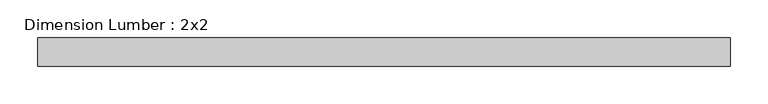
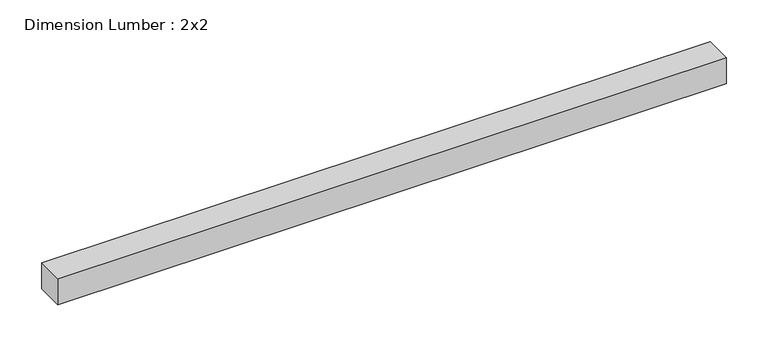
"""IFC4 building model written with IfcOpenShell, lengths in millimetres: beam geometry, Dimension Lumber : 2x2."""

import ifcopenshell
import ifcopenshell.guid

model = None  # the IFC model being written
_history = None  # IfcOwnerHistory: only IFC2X3 demands one
_inside = {}  # id of a spatial element -> (the spatial element, [elements in it])
_under = {}  # id of a project, library or spatial element -> (it, [spatial elements below it])
_declared = {}  # id of a project -> (the project, [libraries it declares])
_typed = {}  # id of a type object -> (the type object, [elements of that type])
_made_of = {}  # id of a material, layer set ... -> (it, [elements and type objects made of it])


def new_model(schema):
    """Start an empty IFC model of exactly this schema.

    Asked for "IFC4X3", IfcOpenShell would pick the latest addendum, in which some entities
    have other attributes; the version numbers below select the first issue.
    IFC2X3 requires an IfcOwnerHistory on every rooted entity: one is made here for all.
    """
    global model, _history
    if schema == "IFC4X3":
        model = ifcopenshell.file(schema_version=(4, 3, 0, 0))
    else:
        model = ifcopenshell.file(schema=schema)
    _inside.clear()
    _under.clear()
    _declared.clear()
    _typed.clear()
    _made_of.clear()
    _history = None
    if model.schema == "IFC2X3":
        org = make("IfcOrganization", Name="unknown")
        user = make(
            "IfcPersonAndOrganization",
            ThePerson=make("IfcPerson", FamilyName="unknown"),
            TheOrganization=org,
        )
        app = make(
            "IfcApplication",
            ApplicationDeveloper=org,
            Version="unknown",
            ApplicationFullName="unknown",
            ApplicationIdentifier="unknown",
        )
        _history = make(
            "IfcOwnerHistory",
            OwningUser=user,
            OwningApplication=app,
            ChangeAction="ADDED",
            CreationDate=0,
        )
    return model


def make(cls, **values):
    """One entity of the class cls with the attributes given. An attribute that is None is left unset."""
    return model.create_entity(
        cls, **{name: value for name, value in values.items() if value is not None}
    )


def rooted(cls, **values):
    """An entity with a GlobalId (a new one), such as an element, a storey or a relation."""
    return make(cls, GlobalId=ifcopenshell.guid.new(), OwnerHistory=_history, **values)


def si_unit(unit_type, name, prefix=None):
    """IfcSIUnit, for example si_unit("LENGTHUNIT", "METRE", prefix="MILLI")."""
    return make("IfcSIUnit", UnitType=unit_type, Prefix=prefix, Name=name)


def assignment(units):
    """IfcUnitAssignment: the units of a project."""
    return None if units is None else make("IfcUnitAssignment", Units=units)


def point(xyz):
    """IfcCartesianPoint."""
    return None if xyz is None else make("IfcCartesianPoint", Coordinates=xyz)


def direction(xyz):
    """IfcDirection."""
    return None if xyz is None else make("IfcDirection", DirectionRatios=xyz)


def frame(location, z_axis=None, x_axis=None):
    """IfcAxis2Placement3D, a coordinate frame: its origin and axes. An axis left out is left unset."""
    return make(
        "IfcAxis2Placement3D",
        Location=point(location),
        Axis=direction(z_axis),
        RefDirection=direction(x_axis),
    )


def origin():
    """The frame at (0, 0, 0) with its axes left unset."""
    return frame((0.0, 0.0, 0.0))


def place(relative_to, where):
    """IfcLocalPlacement: puts the frame where relative to a parent placement (None: the world)."""
    return make(
        "IfcLocalPlacement", PlacementRelTo=relative_to, RelativePlacement=where
    )


def context(
    kind, dimensions, precision=None, world=None, true_north=None, identifier=None
):
    """IfcGeometricRepresentationContext, for example the 3D "Model" context."""
    return make(
        "IfcGeometricRepresentationContext",
        ContextIdentifier=identifier,
        ContextType=kind,
        CoordinateSpaceDimension=dimensions,
        Precision=precision,
        WorldCoordinateSystem=world,
        TrueNorth=true_north,
    )


def project(units=None, contexts=None):
    """IfcProject with its units and contexts."""
    return rooted(
        "IfcProject",
        Name="project",
        RepresentationContexts=contexts,
        UnitsInContext=assignment(units),
    )


def spatial(cls, under=None, at=None, **own):
    """A site, building, storey or space (cls), placed at a placement, below another one or the project."""
    s = rooted(cls, ObjectPlacement=at, **own)
    if under is not None:
        _under.setdefault(under.id(), (under, []))[1].append(s)
    return s


def polyline(points):
    """IfcPolyline through the points."""
    return make("IfcPolyline", Points=[point(p) for p in points])


def outline(outer, holes=None, kind="AREA"):
    """IfcArbitraryClosedProfileDef: a profile drawn as a closed curve; with holes, ...WithVoids."""
    if holes is None:
        return make("IfcArbitraryClosedProfileDef", ProfileType=kind, OuterCurve=outer)
    return make(
        "IfcArbitraryProfileDefWithVoids",
        ProfileType=kind,
        OuterCurve=outer,
        InnerCurves=holes,
    )


def extrude(swept, where, along, depth):
    """IfcExtrudedAreaSolid: the profile swept, set in the frame where, extruded along a direction by depth."""
    return make(
        "IfcExtrudedAreaSolid",
        SweptArea=swept,
        Position=where,
        ExtrudedDirection=direction(along),
        Depth=depth,
    )


def shape(context_of_items, identifier, shape_type, items):
    """IfcShapeRepresentation: the items that make up one representation, for example the "Body"."""
    return make(
        "IfcShapeRepresentation",
        ContextOfItems=context_of_items,
        RepresentationIdentifier=identifier,
        RepresentationType=shape_type,
        Items=items,
    )


def source(mapping_origin, context_of_items, identifier, shape_type, items):
    """IfcRepresentationMap: a shape defined once, which mapped items show again and again."""
    return make(
        "IfcRepresentationMap",
        MappingOrigin=mapping_origin,
        MappedRepresentation=shape(context_of_items, identifier, shape_type, items),
    )


def transform(
    local_origin,
    x_axis=None,
    y_axis=None,
    z_axis=None,
    scale=None,
    scale2=None,
    scale3=None,
    uniform=True,
):
    """IfcCartesianTransformationOperator3D, or its non-uniform kind. x_axis, y_axis, z_axis: its Axis1, 2, 3."""
    if uniform:
        return make(
            "IfcCartesianTransformationOperator3D",
            Axis1=direction(x_axis),
            Axis2=direction(y_axis),
            LocalOrigin=point(local_origin),
            Scale=scale,
            Axis3=direction(z_axis),
        )
    return make(
        "IfcCartesianTransformationOperator3DnonUniform",
        Axis1=direction(x_axis),
        Axis2=direction(y_axis),
        LocalOrigin=point(local_origin),
        Scale=scale,
        Axis3=direction(z_axis),
        Scale2=scale2,
        Scale3=scale3,
    )


def mapped(mapping_source, mapping_target):
    """IfcMappedItem: shows the shape of a source again, moved by a transform."""
    return make(
        "IfcMappedItem", MappingSource=mapping_source, MappingTarget=mapping_target
    )


def made_of(thing, what):
    """Note that an element or type object is made of a material, layer set ...; save() writes the relation."""
    if what is not None:
        _made_of.setdefault(what.id(), (what, []))[1].append(thing)
    return thing


def element(
    cls,
    number,
    at=None,
    inside=None,
    cuts=None,
    type_object=None,
    material=None,
    context=None,
    identifier="Body",
    shape_type=None,
    held_by="IfcProductDefinitionShape",
    body=None,
    shapes=None,
    **own,
):
    """One element of the class cls, such as IfcWall. Its Tag is "e" and its number.

    at: its placement. inside: the storey or other place that contains it. cuts: it is an
    opening in that element (IfcRelVoidsElement). A single representation is given by context,
    identifier, shape_type and body (its items); several are given by shapes. held_by: the class
    of the entity that holds the representations. save() writes the other relations.
    """
    e = rooted(cls, Tag="e%d" % number, ObjectPlacement=at, **own)
    if body is not None:
        shapes = [shape(context, identifier, shape_type, body)]
    if shapes is not None:
        e.Representation = make(held_by, Representations=shapes)
    if inside is not None:
        _inside.setdefault(inside.id(), (inside, []))[1].append(e)
    if cuts is not None:
        rooted(
            "IfcRelVoidsElement", RelatingBuildingElement=cuts, RelatedOpeningElement=e
        )
    if type_object is not None:
        _typed.setdefault(type_object.id(), (type_object, []))[1].append(e)
    return made_of(e, material)


def aggregate(whole, parts):
    """IfcRelAggregates: a whole, such as a stair, and the parts it consists of."""
    return rooted("IfcRelAggregates", RelatingObject=whole, RelatedObjects=parts)


def save(model, path):
    """Write the relations noted so far, then the file.

    IfcRelAggregates (storeys below a building ...), IfcRelContainedInSpatialStructure (elements
    in a storey), IfcRelDefinesByType, IfcRelAssociatesMaterial and IfcRelDeclares: one each for
    every whole, place, type object, material and project.
    """
    for whole, parts in _under.values():
        aggregate(whole, parts)
    for where, things in _inside.values():
        rooted(
            "IfcRelContainedInSpatialStructure",
            RelatedElements=things,
            RelatingStructure=where,
        )
    for kind, things in _typed.values():
        rooted("IfcRelDefinesByType", RelatedObjects=things, RelatingType=kind)
    for what, things in _made_of.values():
        rooted("IfcRelAssociatesMaterial", RelatedObjects=things, RelatingMaterial=what)
    for by, libraries in _declared.values():
        rooted("IfcRelDeclares", RelatingContext=by, RelatedDefinitions=libraries)
    model.write(path)


def dimension_lumber_2x2_a0a05306(model_context):
    return source(origin(), model_context, "Body", "SweptSolid", [
        extrude(outline(polyline([(460.6395833, 19.05), (460.6395833, -19.05), (-460.6395833, -19.05), (-460.6395833, 19.05), (460.6395833, 19.05)])), frame((0.0, 0.0, -19.05), z_axis=(0.0, 0.0, 1.0), x_axis=(1.0, 0.0, 0.0)), (0.0, 0.0, 1.0), 38.1),
    ])


if __name__ == "__main__":
    model = new_model("IFC4")
    model_context = context("Model", 3, world=origin())
    ifc_project = project(units=[si_unit("LENGTHUNIT", "METRE", prefix="MILLI")], contexts=[model_context])
    site = spatial("IfcSite", under=ifc_project)
    building = spatial("IfcBuilding", under=site)
    placement = place(None, origin())
    dimension_lumber_2x2_shape = dimension_lumber_2x2_a0a05306(model_context)
    element("IfcBeam", 1, ObjectType="Dimension Lumber : 2x2", at=placement, inside=building, context=model_context, shape_type="MappedRepresentation", body=[
        mapped(dimension_lumber_2x2_shape, transform((0.0, 0.0, 0.0), x_axis=(1.0, 0.0, 0.0), y_axis=(0.0, 1.0, 0.0), z_axis=(0.0, 0.0, 1.0))),
    ])
    save(model, "model.ifc")
